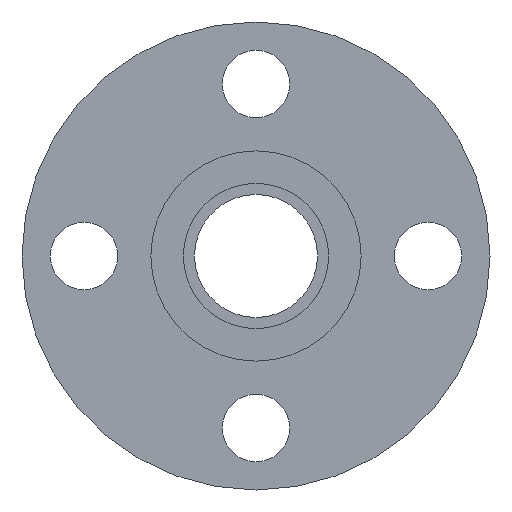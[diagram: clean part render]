
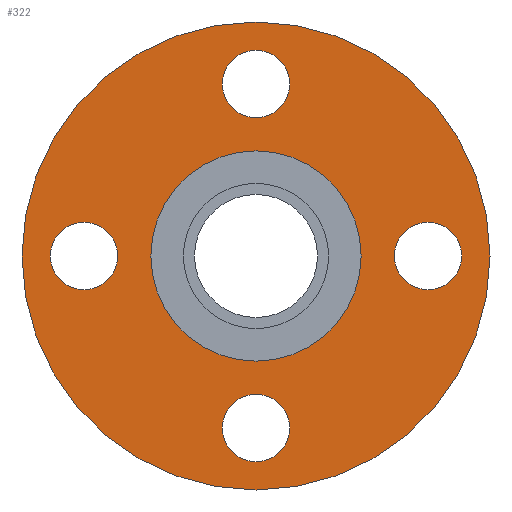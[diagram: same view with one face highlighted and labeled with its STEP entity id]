
A CAD part, left-side view. The second image highlights one B-rep face of the part: STEP entity #322.
In plain terms, the highlighted planar face has unit normal (-1, 0, 0).
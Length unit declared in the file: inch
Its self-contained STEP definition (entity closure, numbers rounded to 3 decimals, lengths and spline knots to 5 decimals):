
#14=FACE_BOUND('',#56,.T.);
#15=FACE_BOUND('',#57,.T.);
#16=FACE_BOUND('',#58,.T.);
#17=FACE_BOUND('',#59,.T.);
#18=FACE_BOUND('',#60,.T.);
#28=PLANE('',#370);
#39=FACE_OUTER_BOUND('',#55,.T.);
#55=EDGE_LOOP('',(#228,#229));
#56=EDGE_LOOP('',(#230));
#57=EDGE_LOOP('',(#231));
#58=EDGE_LOOP('',(#232));
#59=EDGE_LOOP('',(#233));
#60=EDGE_LOOP('',(#234,#235));
#101=CIRCLE('',#355,0.44);
#103=CIRCLE('',#358,0.44);
#105=CIRCLE('',#361,0.44);
#107=CIRCLE('',#364,0.44);
#108=CIRCLE('',#366,3.06);
#109=CIRCLE('',#367,3.06);
#112=CIRCLE('',#371,1.375);
#113=CIRCLE('',#372,1.375);
#133=VERTEX_POINT('',#513);
#135=VERTEX_POINT('',#519);
#137=VERTEX_POINT('',#525);
#139=VERTEX_POINT('',#531);
#140=VERTEX_POINT('',#535);
#141=VERTEX_POINT('',#536);
#144=VERTEX_POINT('',#545);
#145=VERTEX_POINT('',#546);
#166=EDGE_CURVE('',#133,#133,#101,.T.);
#169=EDGE_CURVE('',#135,#135,#103,.T.);
#172=EDGE_CURVE('',#137,#137,#105,.T.);
#175=EDGE_CURVE('',#139,#139,#107,.T.);
#176=EDGE_CURVE('',#140,#141,#108,.T.);
#177=EDGE_CURVE('',#141,#140,#109,.T.);
#181=EDGE_CURVE('',#144,#145,#112,.T.);
#182=EDGE_CURVE('',#145,#144,#113,.T.);
#228=ORIENTED_EDGE('',*,*,#176,.T.);
#229=ORIENTED_EDGE('',*,*,#177,.T.);
#230=ORIENTED_EDGE('',*,*,#166,.T.);
#231=ORIENTED_EDGE('',*,*,#169,.T.);
#232=ORIENTED_EDGE('',*,*,#172,.T.);
#233=ORIENTED_EDGE('',*,*,#175,.T.);
#234=ORIENTED_EDGE('',*,*,#181,.F.);
#235=ORIENTED_EDGE('',*,*,#182,.F.);
#322=ADVANCED_FACE('',(#39,#14,#15,#16,#17,#18),#28,.T.);
#355=AXIS2_PLACEMENT_3D('',#515,#408,#409);
#358=AXIS2_PLACEMENT_3D('',#521,#415,#416);
#361=AXIS2_PLACEMENT_3D('',#527,#422,#423);
#364=AXIS2_PLACEMENT_3D('',#533,#429,#430);
#366=AXIS2_PLACEMENT_3D('',#537,#433,#434);
#367=AXIS2_PLACEMENT_3D('',#538,#435,#436);
#370=AXIS2_PLACEMENT_3D('',#544,#442,#443);
#371=AXIS2_PLACEMENT_3D('',#547,#444,#445);
#372=AXIS2_PLACEMENT_3D('',#548,#446,#447);
#408=DIRECTION('center_axis',(1.,0.,0.));
#409=DIRECTION('ref_axis',(0.,-1.,0.));
#415=DIRECTION('center_axis',(1.,0.,0.));
#416=DIRECTION('ref_axis',(0.,0.,-1.));
#422=DIRECTION('center_axis',(1.,0.,0.));
#423=DIRECTION('ref_axis',(0.,1.,0.));
#429=DIRECTION('center_axis',(1.,0.,0.));
#430=DIRECTION('ref_axis',(0.,0.,1.));
#433=DIRECTION('center_axis',(-1.,0.,0.));
#434=DIRECTION('ref_axis',(0.,0.,1.));
#435=DIRECTION('center_axis',(-1.,0.,0.));
#436=DIRECTION('ref_axis',(0.,0.,1.));
#442=DIRECTION('center_axis',(-1.,0.,0.));
#443=DIRECTION('ref_axis',(0.,0.,1.));
#444=DIRECTION('center_axis',(-1.,0.,0.));
#445=DIRECTION('ref_axis',(0.,0.,1.));
#446=DIRECTION('center_axis',(-1.,0.,0.));
#447=DIRECTION('ref_axis',(0.,0.,1.));
#513=CARTESIAN_POINT('',(-0.81,2.69,0.));
#515=CARTESIAN_POINT('Origin',(-0.81,2.25,0.));
#519=CARTESIAN_POINT('',(-0.81,0.,2.69));
#521=CARTESIAN_POINT('Origin',(-0.81,0.,2.25));
#525=CARTESIAN_POINT('',(-0.81,-2.69,0.));
#527=CARTESIAN_POINT('Origin',(-0.81,-2.25,0.));
#531=CARTESIAN_POINT('',(-0.81,0.,-2.69));
#533=CARTESIAN_POINT('Origin',(-0.81,0.,-2.25));
#535=CARTESIAN_POINT('',(-0.81,0.,3.06));
#536=CARTESIAN_POINT('',(-0.81,0.,-3.06));
#537=CARTESIAN_POINT('Origin',(-0.81,0.,0.));
#538=CARTESIAN_POINT('Origin',(-0.81,0.,0.));
#544=CARTESIAN_POINT('Origin',(-0.81,0.,2.2175));
#545=CARTESIAN_POINT('',(-0.81,0.,1.375));
#546=CARTESIAN_POINT('',(-0.81,0.,-1.375));
#547=CARTESIAN_POINT('Origin',(-0.81,0.,0.));
#548=CARTESIAN_POINT('Origin',(-0.81,0.,0.));
